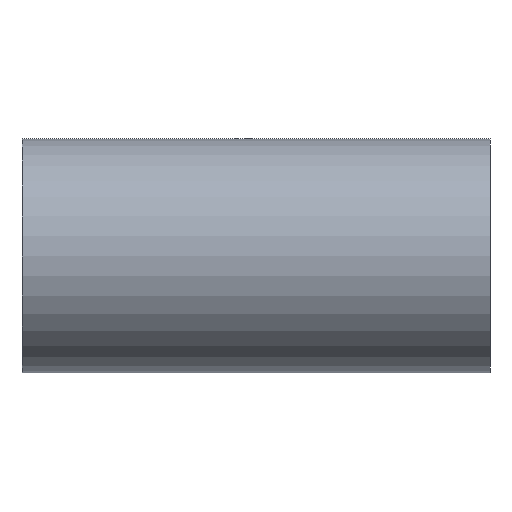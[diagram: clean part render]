
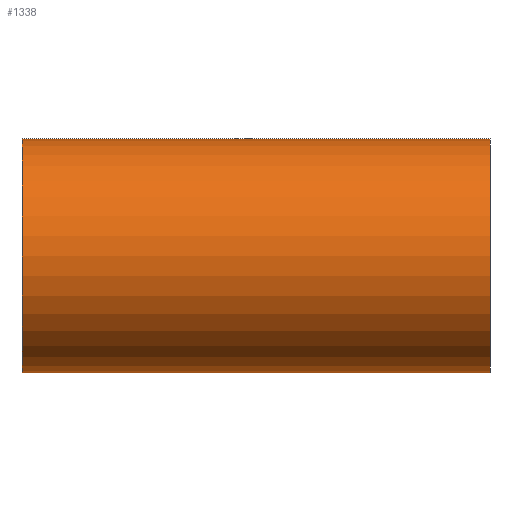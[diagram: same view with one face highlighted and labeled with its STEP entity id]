
A CAD part, front view. The second image highlights one B-rep face of the part: STEP entity #1338.
In plain terms, the highlighted cylindrical face has radius 25 mm (diameter 50 mm), a partial arc.
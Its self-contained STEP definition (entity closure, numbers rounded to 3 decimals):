
#332 = EDGE_CURVE ( 'NONE', #831, #369, #431, .T. ) ;
#369 = VERTEX_POINT ( 'NONE', #1966 ) ;
#431 = LINE ( 'NONE', #920, #1091 ) ;
#524 = DIRECTION ( 'NONE',  ( 1., 0., 0. ) ) ;
#558 = CARTESIAN_POINT ( 'NONE',  ( 59.184, 54.898, 0. ) ) ;
#599 = EDGE_CURVE ( 'NONE', #831, #2107, #670, .T. ) ;
#608 = CIRCLE ( 'NONE', #1666, 25. ) ;
#670 = CIRCLE ( 'NONE', #1264, 25. ) ;
#679 = DIRECTION ( 'NONE',  ( -1., 0., 0. ) ) ;
#681 = ORIENTED_EDGE ( 'NONE', *, *, #1308, .T. ) ;
#734 = CARTESIAN_POINT ( 'NONE',  ( -40.816, 54.898, 0. ) ) ;
#831 = VERTEX_POINT ( 'NONE', #1755 ) ;
#837 = CARTESIAN_POINT ( 'NONE',  ( 59.184, 54.898, -25. ) ) ;
#857 = DIRECTION ( 'NONE',  ( 0., 0., -1. ) ) ;
#907 = VECTOR ( 'NONE', #679, 1000. ) ;
#920 = CARTESIAN_POINT ( 'NONE',  ( 59.184, 54.898, 25. ) ) ;
#937 = AXIS2_PLACEMENT_3D ( 'NONE', #558, #1379, #1222 ) ;
#975 = CARTESIAN_POINT ( 'NONE',  ( 59.184, 54.898, -25. ) ) ;
#988 = CARTESIAN_POINT ( 'NONE',  ( 59.184, 54.898, 0. ) ) ;
#1056 = VERTEX_POINT ( 'NONE', #1295 ) ;
#1091 = VECTOR ( 'NONE', #1608, 1000. ) ;
#1222 = DIRECTION ( 'NONE',  ( 0., 0., 1. ) ) ;
#1264 = AXIS2_PLACEMENT_3D ( 'NONE', #988, #524, #857 ) ;
#1286 = ORIENTED_EDGE ( 'NONE', *, *, #1739, .F. ) ;
#1295 = CARTESIAN_POINT ( 'NONE',  ( -40.816, 54.898, -25. ) ) ;
#1308 = EDGE_CURVE ( 'NONE', #369, #1056, #608, .T. ) ;
#1323 = FACE_OUTER_BOUND ( 'NONE', #2090, .T. ) ;
#1338 = ADVANCED_FACE ( 'NONE', ( #1323 ), #1752, .T. ) ;
#1379 = DIRECTION ( 'NONE',  ( -1., 0., 0. ) ) ;
#1467 = ORIENTED_EDGE ( 'NONE', *, *, #599, .F. ) ;
#1526 = ORIENTED_EDGE ( 'NONE', *, *, #332, .T. ) ;
#1608 = DIRECTION ( 'NONE',  ( -1., 0., 0. ) ) ;
#1666 = AXIS2_PLACEMENT_3D ( 'NONE', #734, #1721, #1898 ) ;
#1721 = DIRECTION ( 'NONE',  ( 1., 0., 0. ) ) ;
#1739 = EDGE_CURVE ( 'NONE', #2107, #1056, #1806, .T. ) ;
#1752 = CYLINDRICAL_SURFACE ( 'NONE', #937, 25. ) ;
#1755 = CARTESIAN_POINT ( 'NONE',  ( 59.184, 54.898, 25. ) ) ;
#1806 = LINE ( 'NONE', #975, #907 ) ;
#1898 = DIRECTION ( 'NONE',  ( 0., 0., -1. ) ) ;
#1966 = CARTESIAN_POINT ( 'NONE',  ( -40.816, 54.898, 25. ) ) ;
#2090 = EDGE_LOOP ( 'NONE', ( #1286, #1467, #1526, #681 ) ) ;
#2107 = VERTEX_POINT ( 'NONE', #837 ) ;
